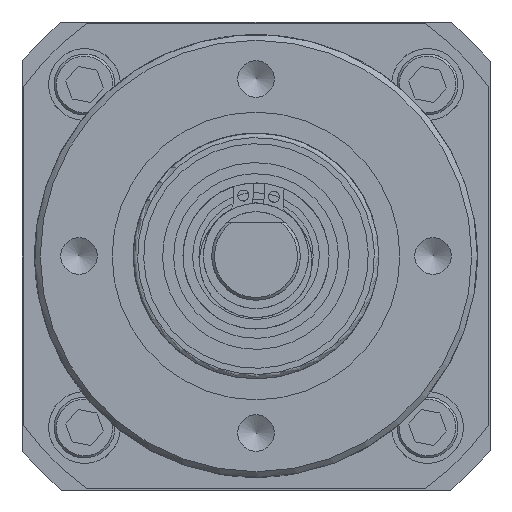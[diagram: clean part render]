
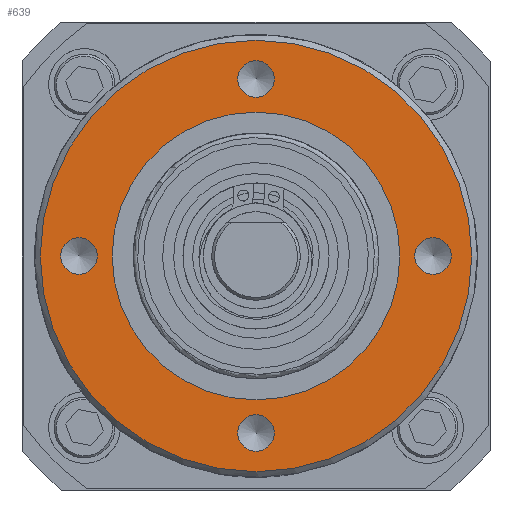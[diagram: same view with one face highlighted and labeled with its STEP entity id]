
A CAD part, front view. The second image highlights one B-rep face of the part: STEP entity #639.
In plain terms, the highlighted planar face has unit normal (0, -1, 0).
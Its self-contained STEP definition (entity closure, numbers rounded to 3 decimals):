
#639 = ADVANCED_FACE( '', ( #1667, #1668, #1669, #1670, #1671, #1672 ), #1673, .T. );
#1667 = FACE_OUTER_BOUND( '', #3269, .T. );
#1668 = FACE_BOUND( '', #3270, .T. );
#1669 = FACE_BOUND( '', #3271, .T. );
#1670 = FACE_BOUND( '', #3272, .T. );
#1671 = FACE_BOUND( '', #3273, .T. );
#1672 = FACE_BOUND( '', #3274, .T. );
#1673 = PLANE( '', #3275 );
#3269 = EDGE_LOOP( '', ( #5198 ) );
#3270 = EDGE_LOOP( '', ( #5199 ) );
#3271 = EDGE_LOOP( '', ( #5200 ) );
#3272 = EDGE_LOOP( '', ( #5201 ) );
#3273 = EDGE_LOOP( '', ( #5202 ) );
#3274 = EDGE_LOOP( '', ( #5203 ) );
#3275 = AXIS2_PLACEMENT_3D( '', #5204, #5205, #5206 );
#5198 = ORIENTED_EDGE( '', *, *, #7929, .T. );
#5199 = ORIENTED_EDGE( '', *, *, #7930, .T. );
#5200 = ORIENTED_EDGE( '', *, *, #7931, .T. );
#5201 = ORIENTED_EDGE( '', *, *, #7932, .T. );
#5202 = ORIENTED_EDGE( '', *, *, #7825, .T. );
#5203 = ORIENTED_EDGE( '', *, *, #7933, .F. );
#5204 = CARTESIAN_POINT( '', ( 0., 0., 13. ) );
#5205 = DIRECTION( '', ( 0., -1., 0. ) );
#5206 = DIRECTION( '', ( -1., 0., 0. ) );
#7825 = EDGE_CURVE( '', #9107, #9107, #9108, .T. );
#7929 = EDGE_CURVE( '', #9268, #9268, #9269, .T. );
#7930 = EDGE_CURVE( '', #9270, #9270, #9271, .T. );
#7931 = EDGE_CURVE( '', #9272, #9272, #9273, .T. );
#7932 = EDGE_CURVE( '', #9274, #9274, #9275, .T. );
#7933 = EDGE_CURVE( '', #9276, #9276, #9277, .T. );
#9107 = VERTEX_POINT( '', #11014 );
#9108 = CIRCLE( '', #11015, 1.65 );
#9268 = VERTEX_POINT( '', #11236 );
#9269 = CIRCLE( '', #11237, 19.5 );
#9270 = VERTEX_POINT( '', #11238 );
#9271 = CIRCLE( '', #11239, 1.65 );
#9272 = VERTEX_POINT( '', #11240 );
#9273 = CIRCLE( '', #11241, 1.65 );
#9274 = VERTEX_POINT( '', #11242 );
#9275 = CIRCLE( '', #11243, 1.65 );
#9276 = VERTEX_POINT( '', #11244 );
#9277 = CIRCLE( '', #11245, 13. );
#11014 = CARTESIAN_POINT( '', ( 17.65, 0., 0. ) );
#11015 = AXIS2_PLACEMENT_3D( '', #13500, #13501, #13502 );
#11236 = CARTESIAN_POINT( '', ( 19.5, 0., 0. ) );
#11237 = AXIS2_PLACEMENT_3D( '', #13651, #13652, #13653 );
#11238 = CARTESIAN_POINT( '', ( 1.65, 0., 16. ) );
#11239 = AXIS2_PLACEMENT_3D( '', #13654, #13655, #13656 );
#11240 = CARTESIAN_POINT( '', ( -14.35, 0., 0. ) );
#11241 = AXIS2_PLACEMENT_3D( '', #13657, #13658, #13659 );
#11242 = CARTESIAN_POINT( '', ( 1.65, 0., -16. ) );
#11243 = AXIS2_PLACEMENT_3D( '', #13660, #13661, #13662 );
#11244 = CARTESIAN_POINT( '', ( 13., 0., 0. ) );
#11245 = AXIS2_PLACEMENT_3D( '', #13663, #13664, #13665 );
#13500 = CARTESIAN_POINT( '', ( 16., 0., 0. ) );
#13501 = DIRECTION( '', ( 0., 1., 0. ) );
#13502 = DIRECTION( '', ( 1., 0., 0. ) );
#13651 = CARTESIAN_POINT( '', ( 0., 0., 0. ) );
#13652 = DIRECTION( '', ( 0., -1., 0. ) );
#13653 = DIRECTION( '', ( 1., 0., 0. ) );
#13654 = CARTESIAN_POINT( '', ( 0., 0., 16. ) );
#13655 = DIRECTION( '', ( 0., 1., 0. ) );
#13656 = DIRECTION( '', ( 1., 0., 0. ) );
#13657 = CARTESIAN_POINT( '', ( -16., 0., 0. ) );
#13658 = DIRECTION( '', ( 0., 1., 0. ) );
#13659 = DIRECTION( '', ( 1., 0., 0. ) );
#13660 = CARTESIAN_POINT( '', ( 0., 0., -16. ) );
#13661 = DIRECTION( '', ( 0., 1., 0. ) );
#13662 = DIRECTION( '', ( 1., 0., 0. ) );
#13663 = CARTESIAN_POINT( '', ( 0., 0., 0. ) );
#13664 = DIRECTION( '', ( 0., -1., 0. ) );
#13665 = DIRECTION( '', ( 1., 0., 0. ) );
